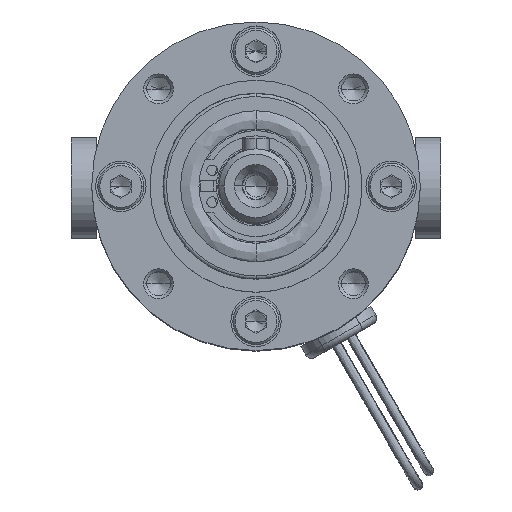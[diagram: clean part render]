
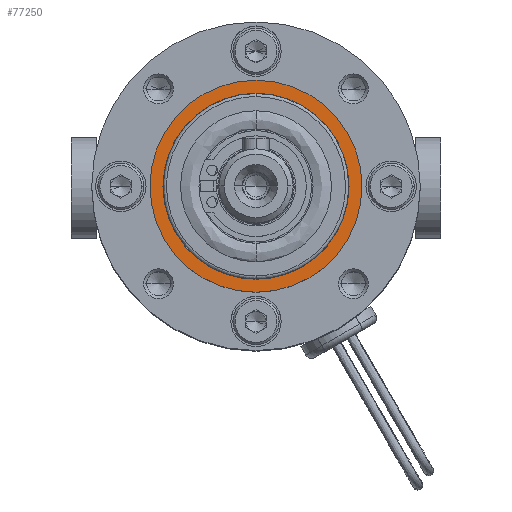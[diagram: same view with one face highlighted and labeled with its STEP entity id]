
A CAD part, top view. The second image highlights one B-rep face of the part: STEP entity #77250.
In plain terms, the highlighted planar face has unit normal (0, 0, 1).
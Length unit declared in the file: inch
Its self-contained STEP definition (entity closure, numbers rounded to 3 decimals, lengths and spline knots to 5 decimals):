
#2500 = AXIS2_PLACEMENT_3D ( 'NONE', #124400, #66076, #7709 ) ;
#5763 = DIRECTION ( 'NONE',  ( 1., 0., 0. ) ) ;
#6237 = EDGE_CURVE ( 'NONE', #7039, #6622, #45486, .T. ) ;
#6622 = VERTEX_POINT ( 'NONE', #20667 ) ;
#7039 = VERTEX_POINT ( 'NONE', #108235 ) ;
#7709 = DIRECTION ( 'NONE',  ( 1., 0., 0. ) ) ;
#10507 = CARTESIAN_POINT ( 'NONE',  ( 0., 0., 2.64724 ) ) ;
#11148 = DIRECTION ( 'NONE',  ( 0., 0., -1. ) ) ;
#12309 = ORIENTED_EDGE ( 'NONE', *, *, #6237, .T. ) ;
#15947 = AXIS2_PLACEMENT_3D ( 'NONE', #69519, #11148, #79237 ) ;
#16799 = EDGE_CURVE ( 'NONE', #87556, #50463, #44016, .T. ) ;
#17136 = PLANE ( 'NONE',  #2500 ) ;
#20290 = DIRECTION ( 'NONE',  ( 1., 0., 0. ) ) ;
#20667 = CARTESIAN_POINT ( 'NONE',  ( 0.69094, 0., 2.64724 ) ) ;
#22944 = CARTESIAN_POINT ( 'NONE',  ( 0., 0., 2.64724 ) ) ;
#25844 = CARTESIAN_POINT ( 'NONE',  ( -0.7874, 0., 2.64724 ) ) ;
#32735 = DIRECTION ( 'NONE',  ( -1., 0., 0. ) ) ;
#36871 = EDGE_LOOP ( 'NONE', ( #93919, #61558 ) ) ;
#44016 = CIRCLE ( 'NONE', #69478, 0.7874 ) ;
#45486 = CIRCLE ( 'NONE', #85968, 0.69094 ) ;
#50381 = CIRCLE ( 'NONE', #60908, 0.7874 ) ;
#50463 = VERTEX_POINT ( 'NONE', #25844 ) ;
#58001 = EDGE_CURVE ( 'NONE', #50463, #87556, #50381, .T. ) ;
#60908 = AXIS2_PLACEMENT_3D ( 'NONE', #10507, #78604, #20290 ) ;
#61558 = ORIENTED_EDGE ( 'NONE', *, *, #58001, .F. ) ;
#64072 = DIRECTION ( 'NONE',  ( 0., 0., -1. ) ) ;
#66076 = DIRECTION ( 'NONE',  ( 0., 0., 1. ) ) ;
#69478 = AXIS2_PLACEMENT_3D ( 'NONE', #122410, #64072, #5763 ) ;
#69519 = CARTESIAN_POINT ( 'NONE',  ( 0., 0., 2.64724 ) ) ;
#77250 = ADVANCED_FACE ( 'NONE', ( #98266, #101337 ), #17136, .T. ) ;
#78604 = DIRECTION ( 'NONE',  ( 0., 0., -1. ) ) ;
#78826 = CIRCLE ( 'NONE', #15947, 0.69094 ) ;
#79237 = DIRECTION ( 'NONE',  ( -1., 0., 0. ) ) ;
#85968 = AXIS2_PLACEMENT_3D ( 'NONE', #22944, #91090, #32735 ) ;
#86567 = EDGE_LOOP ( 'NONE', ( #12309, #108737 ) ) ;
#87556 = VERTEX_POINT ( 'NONE', #88081 ) ;
#88081 = CARTESIAN_POINT ( 'NONE',  ( 0.7874, 0., 2.64724 ) ) ;
#91090 = DIRECTION ( 'NONE',  ( 0., 0., -1. ) ) ;
#93919 = ORIENTED_EDGE ( 'NONE', *, *, #16799, .F. ) ;
#98266 = FACE_BOUND ( 'NONE', #86567, .T. ) ;
#101337 = FACE_OUTER_BOUND ( 'NONE', #36871, .T. ) ;
#108235 = CARTESIAN_POINT ( 'NONE',  ( -0.69094, 0., 2.64724 ) ) ;
#108737 = ORIENTED_EDGE ( 'NONE', *, *, #111750, .T. ) ;
#111750 = EDGE_CURVE ( 'NONE', #6622, #7039, #78826, .T. ) ;
#122410 = CARTESIAN_POINT ( 'NONE',  ( 0., 0., 2.64724 ) ) ;
#124400 = CARTESIAN_POINT ( 'NONE',  ( 0., 0., 2.64724 ) ) ;
